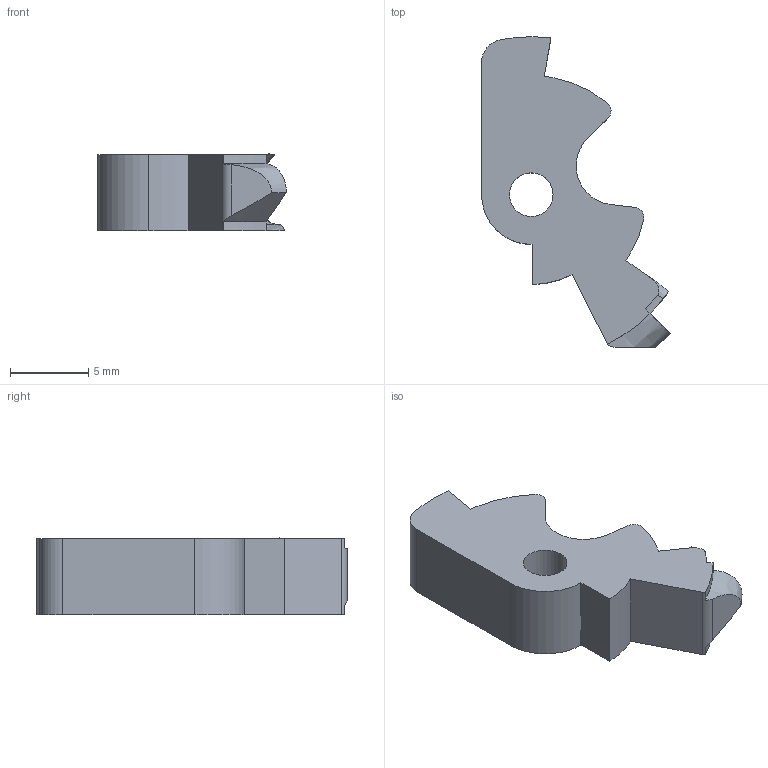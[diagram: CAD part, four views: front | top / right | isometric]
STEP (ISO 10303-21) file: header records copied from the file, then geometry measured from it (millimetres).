
FILE_DESCRIPTION(/* description */ ('STEP AP242','CAx-IF Rec.Pracs.---Representation and Presentation of Product Manufacturing Information (PMI)---4.0---2014-10-13','CAx-IF Rec.Pracs.---3D Tessellated Geometry---0.4---2014-09-14','2;1'),/* implementation_level */ '2;1');
FILE_NAME(/* name */ '61ff3ff1b206e22c6873e736',/* time_stamp */ '2022-02-06T03:26:41+00:00',/* author */ (''),/* organization */ (''),/* preprocessor_version */ 'ST-DEVELOPER v18.101',/* originating_system */ ' ',/* authorisation */ ' ');
FILE_SCHEMA (('AP242_MANAGED_MODEL_BASED_3D_ENGINEERING_MIM_LF { 1 0 10303 442 1 1 4 }'));
Length unit declared in the file: metre
Products named in the file (1): FRT Safety Lever
Bounding box: 12.07 x 19.86 x 4.98 mm (x, y, z)
Volume: 551 mm3; surface area: 565.4 mm2
Topology: 1 solids, 1 shells, 33 faces, 94 edges, 63 vertices
Faces by surface type: cylinder 15, plane 13, bspline 3, cone 1, torus 1
Full cylindrical faces by diameter (mm): 2.794 x1
Entity records: 1219 total; most frequent: CARTESIAN_POINT 347, ORIENTED_EDGE 186, DIRECTION 169, EDGE_CURVE 93, AXIS2_PLACEMENT_3D 64, VERTEX_POINT 63, LINE 41, VECTOR 41
